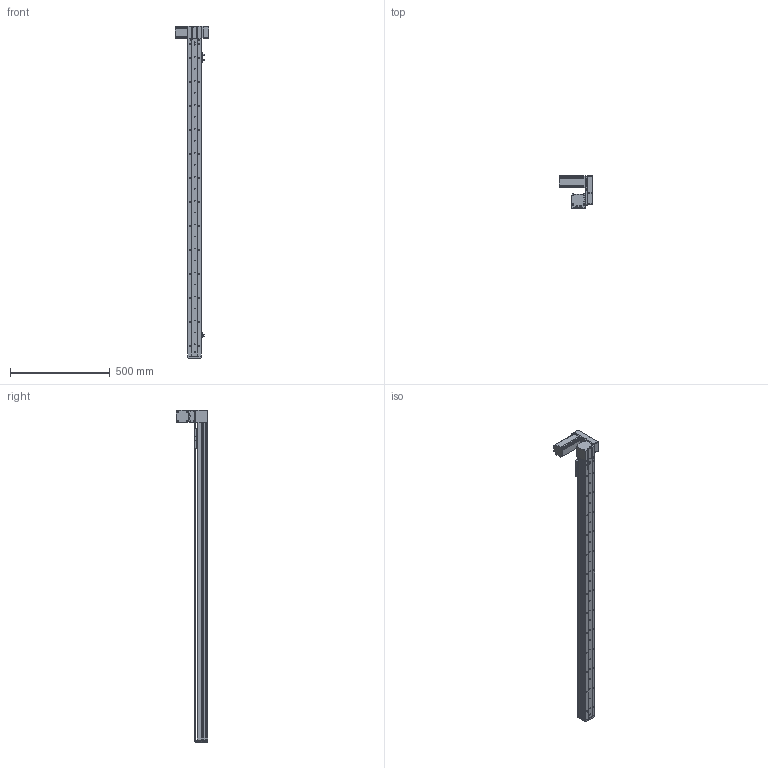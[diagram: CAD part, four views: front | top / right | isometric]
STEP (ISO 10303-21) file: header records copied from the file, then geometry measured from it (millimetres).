
FILE_DESCRIPTION (( 'STEP AP203' ), '1' );
FILE_NAME ('KSD68BS-S1400-MLU-CM.STEP', '2019-10-19T09:26:53', ( '微软用户' ), ( '微软中国' ), 'SwSTEP 2.0', 'SolidWorks 2014', '' );
FILE_SCHEMA (( 'CONFIG_CONTROL_DESIGN' ));
Length unit declared in the file: millimetre
Products named in the file (11): KSD68BS 1400俴最菁啣圉猾敕; 悵誘欶奻狟殏; 台达ECMA－C20604AS伺服电机（400W); KSD68BS-S1400-MLU-CM; U倰嫖萇EEㄜSX672; KSD68BS半封闭同步带传动导轨座; 覜茼え68遵圉猾敕; KSD68BS 1400俴最裔啣圉猾敕; 68单导轨同步带半封闭端板; 68宽单导轨半封闭同步带主动轮座左; 68宽马达安装板连板上折同步带
Assembly tree (12 placements, depth 2):
  KSD68BS-S1400-MLU-CM
    KSD68BS 1400俴最菁啣圉猾敕
    台达ECMA－C20604AS伺服电机（400W)
    U倰嫖萇EEㄜSX672  x3
    KSD68BS半封闭同步带传动导轨座
    覜茼え68遵圉猾敕
    KSD68BS 1400俴最裔啣圉猾敕
    68单导轨同步带半封闭端板
    68宽单导轨半封闭同步带主动轮座左
    68宽马达安装板连板上折同步带
    悵誘欶奻狟殏
Bounding box: 167.2 x 159.5 x 1662 mm (x, y, z)
Volume: 2874885.9 mm3; surface area: 1052611.2 mm2
Topology: 13 solids, 13 shells, 1540 faces, 4492 edges, 2926 vertices
Faces by surface type: cylinder 802, plane 655, cone 83
Entity records: 49317 total; most frequent: CARTESIAN_POINT 11822, ORIENTED_EDGE 7736, DIRECTION 7514, EDGE_CURVE 3868, AXIS2_PLACEMENT_3D 2706, VERTEX_POINT 2550, VECTOR 2102, LINE 2102
